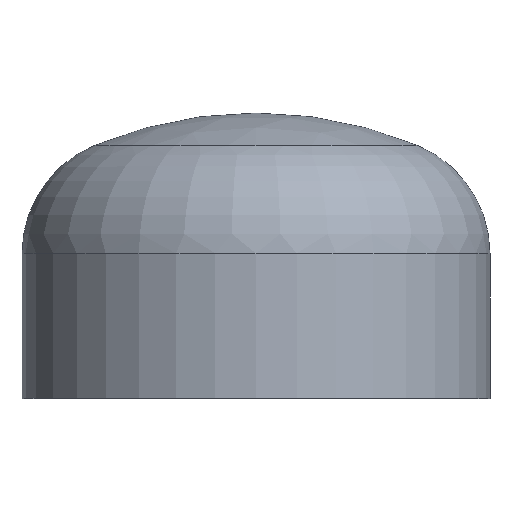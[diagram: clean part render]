
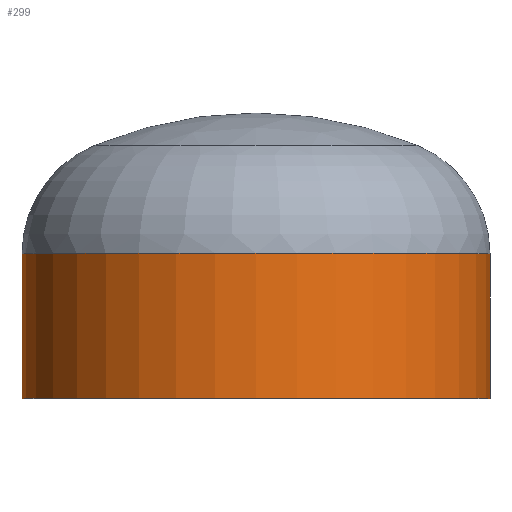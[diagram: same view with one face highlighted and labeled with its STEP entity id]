
A CAD part, top view. The second image highlights one B-rep face of the part: STEP entity #299.
In plain terms, the highlighted cylindrical face has radius 177.8 mm (diameter 355.6 mm), a partial arc.
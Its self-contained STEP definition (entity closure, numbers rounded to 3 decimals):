
#12 = VERTEX_POINT ( 'NONE', #278 ) ;
#22 = AXIS2_PLACEMENT_3D ( 'NONE', #183, #249, #221 ) ;
#23 = AXIS2_PLACEMENT_3D ( 'NONE', #174, #136, #137 ) ;
#44 = ORIENTED_EDGE ( 'NONE', *, *, #327, .F. ) ;
#46 = VERTEX_POINT ( 'NONE', #361 ) ;
#63 = CARTESIAN_POINT ( 'NONE',  ( -177.8, 110., 0. ) ) ;
#68 = AXIS2_PLACEMENT_3D ( 'NONE', #233, #232, #337 ) ;
#71 = EDGE_CURVE ( 'NONE', #12, #332, #200, .T. ) ;
#72 = ORIENTED_EDGE ( 'NONE', *, *, #79, .T. ) ;
#78 = LINE ( 'NONE', #345, #251 ) ;
#79 = EDGE_CURVE ( 'NONE', #332, #46, #78, .T. ) ;
#96 = VERTEX_POINT ( 'NONE', #202 ) ;
#136 = DIRECTION ( 'NONE',  ( 0., -1., 0. ) ) ;
#137 = DIRECTION ( 'NONE',  ( 1., 0., 0. ) ) ;
#145 = ORIENTED_EDGE ( 'NONE', *, *, #71, .T. ) ;
#147 = CYLINDRICAL_SURFACE ( 'NONE', #22, 177.8 ) ;
#149 = EDGE_LOOP ( 'NONE', ( #145, #72, #151, #44 ) ) ;
#151 = ORIENTED_EDGE ( 'NONE', *, *, #335, .F. ) ;
#174 = CARTESIAN_POINT ( 'NONE',  ( 0., 0., 0. ) ) ;
#183 = CARTESIAN_POINT ( 'NONE',  ( 0., 0., 0. ) ) ;
#187 = CARTESIAN_POINT ( 'NONE',  ( 177.8, 0., 0. ) ) ;
#188 = DIRECTION ( 'NONE',  ( 0., -1., 0. ) ) ;
#200 = CIRCLE ( 'NONE', #68, 177.8 ) ;
#202 = CARTESIAN_POINT ( 'NONE',  ( 177.8, 0., 0. ) ) ;
#211 = CIRCLE ( 'NONE', #23, 177.8 ) ;
#221 = DIRECTION ( 'NONE',  ( 1., 0., 0. ) ) ;
#232 = DIRECTION ( 'NONE',  ( 0., -1., 0. ) ) ;
#233 = CARTESIAN_POINT ( 'NONE',  ( 0., 110., 0. ) ) ;
#249 = DIRECTION ( 'NONE',  ( 0., -1., 0. ) ) ;
#251 = VECTOR ( 'NONE', #329, 1000. ) ;
#278 = CARTESIAN_POINT ( 'NONE',  ( 177.8, 110., 0. ) ) ;
#290 = FACE_OUTER_BOUND ( 'NONE', #149, .T. ) ;
#299 = ADVANCED_FACE ( 'NONE', ( #290 ), #147, .T. ) ;
#327 = EDGE_CURVE ( 'NONE', #12, #96, #400, .T. ) ;
#329 = DIRECTION ( 'NONE',  ( 0., -1., 0. ) ) ;
#332 = VERTEX_POINT ( 'NONE', #63 ) ;
#335 = EDGE_CURVE ( 'NONE', #96, #46, #211, .T. ) ;
#337 = DIRECTION ( 'NONE',  ( 1., 0., 0. ) ) ;
#345 = CARTESIAN_POINT ( 'NONE',  ( -177.8, 0., 0. ) ) ;
#347 = VECTOR ( 'NONE', #188, 1000. ) ;
#361 = CARTESIAN_POINT ( 'NONE',  ( -177.8, 0., 0. ) ) ;
#400 = LINE ( 'NONE', #187, #347 ) ;
